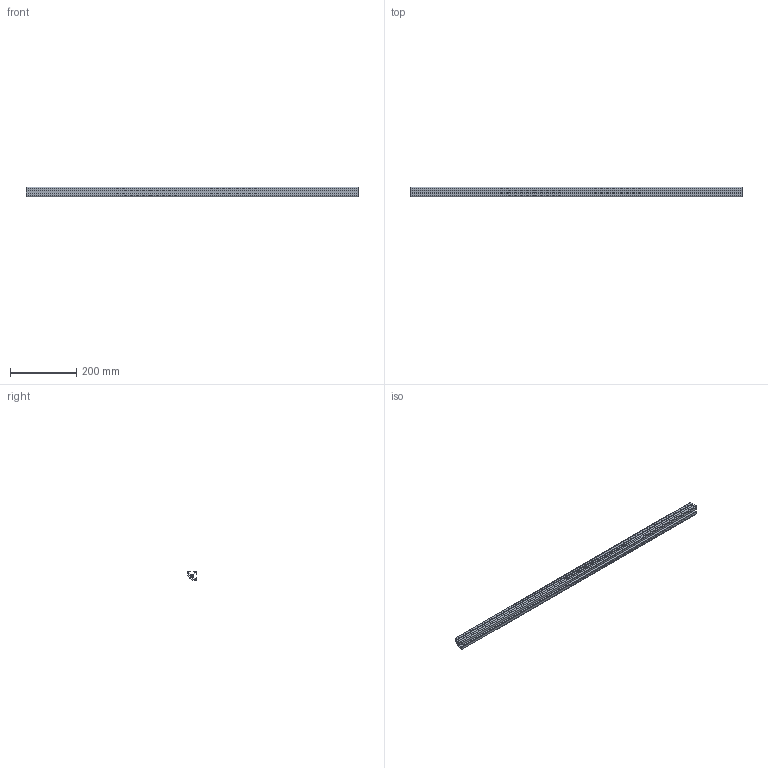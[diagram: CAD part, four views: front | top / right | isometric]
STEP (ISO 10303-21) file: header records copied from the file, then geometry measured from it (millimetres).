
FILE_DESCRIPTION (( 'STEP AP214' ), '1' );
FILE_NAME ('10420_PRO_8_R30_90.STEP', '2016-02-29T14:54:13', ( '' ), ( '' ), 'SwSTEP 2.0', 'SolidWorks 2015', '' );
FILE_SCHEMA (( 'AUTOMOTIVE_DESIGN' ));
Length unit declared in the file: millimetre
Products named in the file (1): 10420_PRO_8_R30_90
Bounding box: 1000 x 29.83 x 29.83 mm (x, y, z)
Volume: 318175.4 mm3; surface area: 254175.5 mm2
Topology: 1 solids, 1 shells, 68 faces, 198 edges, 132 vertices
Faces by surface type: cylinder 38, plane 30
Entity records: 2324 total; most frequent: DIRECTION 412, CARTESIAN_POINT 399, ORIENTED_EDGE 396, EDGE_CURVE 198, AXIS2_PLACEMENT_3D 145, VERTEX_POINT 132, VECTOR 122, LINE 122
